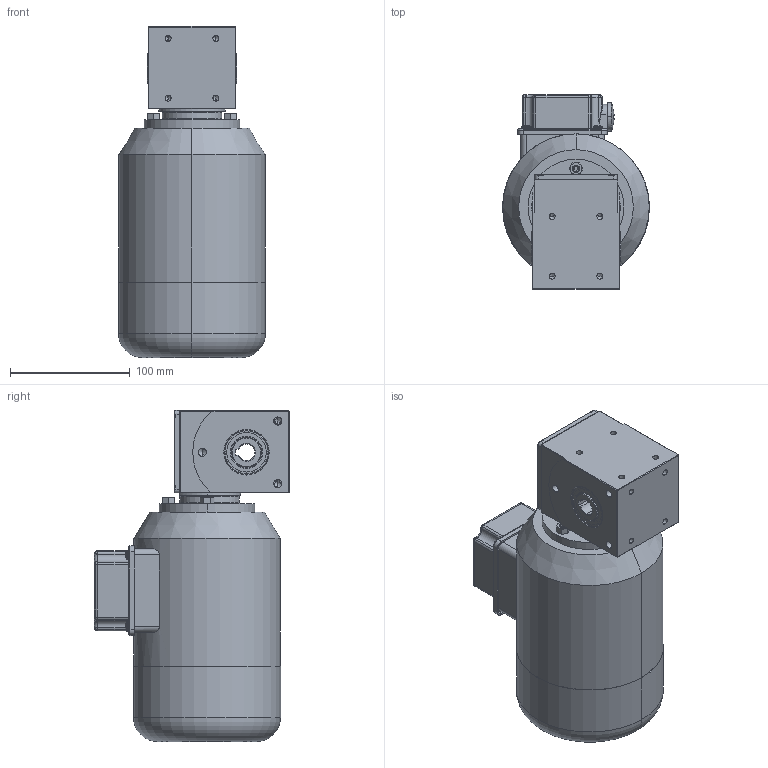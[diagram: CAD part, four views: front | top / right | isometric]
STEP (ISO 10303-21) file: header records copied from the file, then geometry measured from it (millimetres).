
FILE_DESCRIPTION (( 'STEP AP214' ), '1' );
FILE_NAME ('SN14H_120W_250W_Drehstrom-Motor_D.STEP', '2022-08-01T09:00:57', ( '' ), ( '' ), 'SwSTEP 2.0', 'SolidWorks 2021', '' );
FILE_SCHEMA (( 'AUTOMOTIVE_DESIGN' ));
Length unit declared in the file: millimetre
Products named in the file (10): 04B-D-003; 14H-G-001_3D-Export; NBR_WDR_25x37x7; 03-M-268 I 250W_2800Upm; hexa csunk flathd screw_iso_ISO 14581 M5x12x12-C; hex nut style 1 gradeab_iso_ISO - 4032 - M6 - D - C; socket set screw flat point_iso_ISO 4026 - M6 x 20-C; SN14H_3D-Export; 03BH-W-002_3D-Export; SN14H_120W_250W_Drehstrom-Motor_D
Assembly tree (17 placements, depth 3):
  SN14H_120W_250W_Drehstrom-Motor_D
    SN14H_3D-Export
      14H-G-001_3D-Export
      04B-D-003
      03BH-W-002_3D-Export
      NBR_WDR_25x37x7  x2
      hexa csunk flathd screw_iso_ISO 14581 M5x12x12-C  x4
      socket set screw flat point_iso_ISO 4026 - M6 x 20-C  x3
      hex nut style 1 gradeab_iso_ISO - 4032 - M6 - D - C  x3
    03-M-268 I 250W_2800Upm
Bounding box: 123 x 163.2 x 277 mm (x, y, z)
Volume: 2737233.2 mm3; surface area: 212352 mm2
Topology: 17 solids, 17 shells, 918 faces, 2321 edges, 1412 vertices
Faces by surface type: cylinder 338, cone 238, plane 200, torus 111, sphere 24, bspline 7
Entity records: 24317 total; most frequent: CARTESIAN_POINT 6199, DIRECTION 3925, ORIENTED_EDGE 3626, EDGE_CURVE 1813, AXIS2_PLACEMENT_3D 1645, VERTEX_POINT 1136, CIRCLE 910, EDGE_LOOP 781
